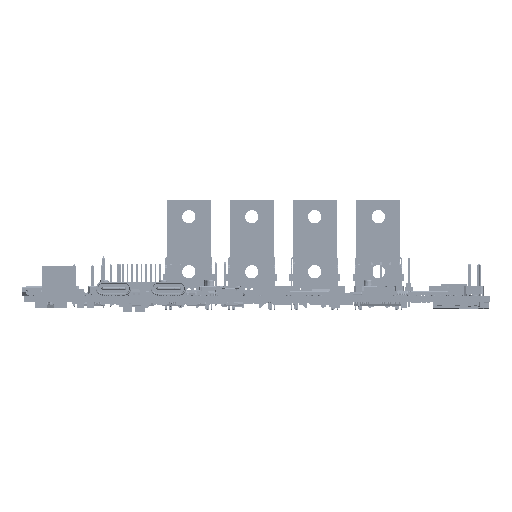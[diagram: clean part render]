
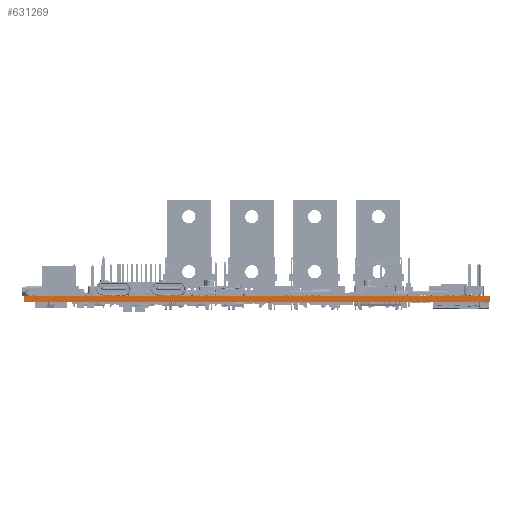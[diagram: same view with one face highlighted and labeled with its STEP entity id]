
A CAD part, front view. The second image highlights one B-rep face of the part: STEP entity #631269.
In plain terms, the highlighted planar face has unit normal (0, -1, 0).
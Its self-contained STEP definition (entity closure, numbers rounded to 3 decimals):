
#18294 = CARTESIAN_POINT ( 'NONE',  ( 0., 0., 1.62 ) ) ;
#19132 = VECTOR ( 'NONE', #222712, 1000. ) ;
#19868 = LINE ( 'NONE', #169284, #769056 ) ;
#87560 = CARTESIAN_POINT ( 'NONE',  ( 127., 0., 0. ) ) ;
#103475 = CARTESIAN_POINT ( 'NONE',  ( 127., 0., 1.62 ) ) ;
#119479 = VERTEX_POINT ( 'NONE', #599402 ) ;
#132233 = EDGE_CURVE ( 'NONE', #119479, #810577, #843962, .T. ) ;
#133852 = DIRECTION ( 'NONE',  ( 0., 0., 1. ) ) ;
#167885 = VERTEX_POINT ( 'NONE', #18294 ) ;
#169284 = CARTESIAN_POINT ( 'NONE',  ( 0., 0., 1.62 ) ) ;
#222712 = DIRECTION ( 'NONE',  ( 1., 0., 0. ) ) ;
#272648 = EDGE_CURVE ( 'NONE', #322274, #810577, #624170, .T. ) ;
#302766 = ORIENTED_EDGE ( 'NONE', *, *, #655500, .F. ) ;
#311272 = CARTESIAN_POINT ( 'NONE',  ( 0., 0., 1.62 ) ) ;
#322274 = VERTEX_POINT ( 'NONE', #103475 ) ;
#403126 = DIRECTION ( 'NONE',  ( 0., 0., -1. ) ) ;
#482614 = VECTOR ( 'NONE', #544981, 1000. ) ;
#483161 = ORIENTED_EDGE ( 'NONE', *, *, #272648, .F. ) ;
#521281 = LINE ( 'NONE', #904666, #19132 ) ;
#544981 = DIRECTION ( 'NONE',  ( 1., 0., 0. ) ) ;
#564095 = CARTESIAN_POINT ( 'NONE',  ( 127., 0., 1.62 ) ) ;
#582911 = VECTOR ( 'NONE', #713718, 1000. ) ;
#586633 = FACE_OUTER_BOUND ( 'NONE', #891758, .T. ) ;
#599402 = CARTESIAN_POINT ( 'NONE',  ( 0., 0., 0. ) ) ;
#606819 = AXIS2_PLACEMENT_3D ( 'NONE', #311272, #890445, #133852 ) ;
#624170 = LINE ( 'NONE', #564095, #582911 ) ;
#631269 = ADVANCED_FACE ( 'NONE', ( #586633 ), #960329, .F. ) ;
#655500 = EDGE_CURVE ( 'NONE', #167885, #322274, #521281, .T. ) ;
#707382 = ORIENTED_EDGE ( 'NONE', *, *, #861836, .T. ) ;
#713718 = DIRECTION ( 'NONE',  ( 0., 0., -1. ) ) ;
#769056 = VECTOR ( 'NONE', #403126, 1000. ) ;
#778431 = ORIENTED_EDGE ( 'NONE', *, *, #132233, .T. ) ;
#810577 = VERTEX_POINT ( 'NONE', #87560 ) ;
#843962 = LINE ( 'NONE', #908793, #482614 ) ;
#861836 = EDGE_CURVE ( 'NONE', #167885, #119479, #19868, .T. ) ;
#890445 = DIRECTION ( 'NONE',  ( 0., 1., 0. ) ) ;
#891758 = EDGE_LOOP ( 'NONE', ( #778431, #483161, #302766, #707382 ) ) ;
#904666 = CARTESIAN_POINT ( 'NONE',  ( 0., 0., 1.62 ) ) ;
#908793 = CARTESIAN_POINT ( 'NONE',  ( 0., 0., 0. ) ) ;
#960329 = PLANE ( 'NONE',  #606819 ) ;
